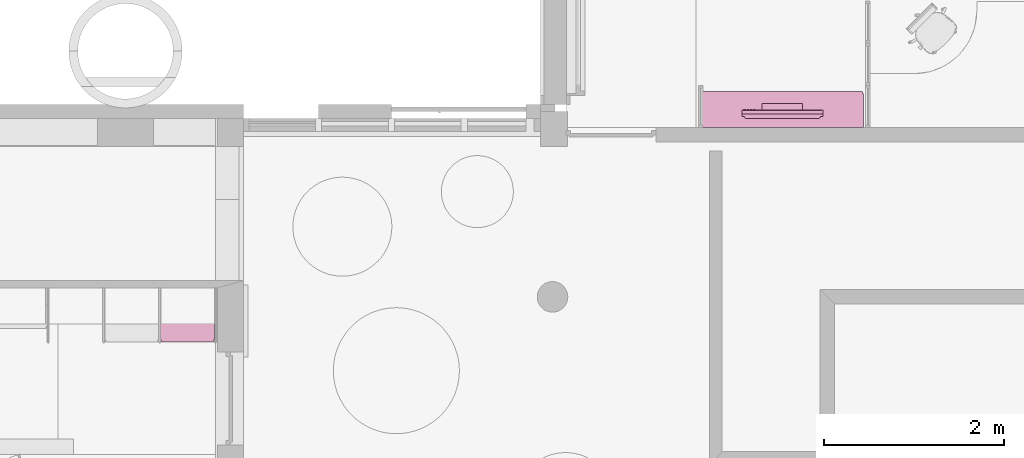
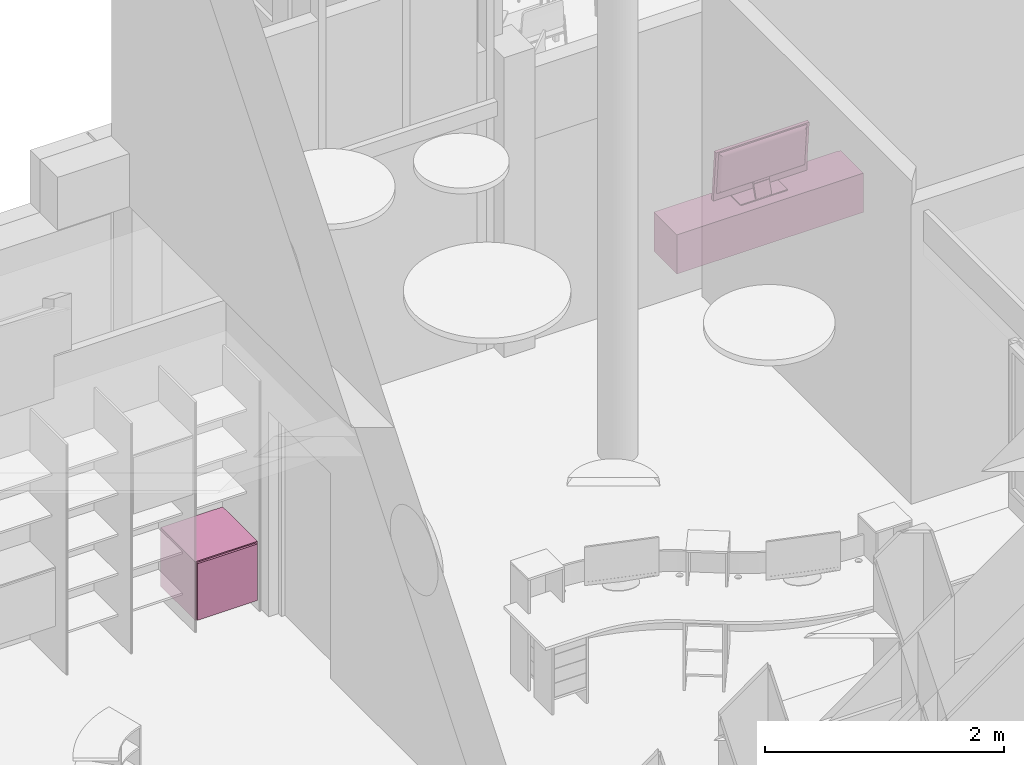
# One storey, part 51 of 64: 3 furnishings.
"""IFC2X3 building model written with IfcOpenShell, lengths in metres."""

from ifc_helpers import new_model, entity, si_unit, converted_unit, derived_unit, direction, frame, origin, place, context, subcontext, project, spatial, faceted_brep, source, transform, mapped, material, type_object, type_shapes, element, save


model = new_model("IFC2X3")

# Units and contexts
model_context = context("Model", 3, precision=1e-05, world=origin(), true_north=direction((6.123031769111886e-17, 1.0)))
body_context = subcontext(model_context, "Body", "Model", "MODEL_VIEW")
ifc_project = project(units=[si_unit("LENGTHUNIT", "METRE"), si_unit("AREAUNIT", "SQUARE_METRE"), si_unit("VOLUMEUNIT", "CUBIC_METRE"), converted_unit("PLANEANGLEUNIT", "DEGREE", entity("IfcRatioMeasure", 0.017453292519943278), si_unit("PLANEANGLEUNIT", "RADIAN"), dimensions=[0, 0, 0, 0, 0, 0, 0]), si_unit("MASSUNIT", "GRAM", prefix="KILO"), derived_unit("MASSDENSITYUNIT", [(si_unit("MASSUNIT", "GRAM", prefix="KILO"), 1), (si_unit("LENGTHUNIT", "METRE"), -3)]), derived_unit("MOMENTOFINERTIAUNIT", [(si_unit("LENGTHUNIT", "METRE"), 4)]), si_unit("TIMEUNIT", "SECOND"), si_unit("FREQUENCYUNIT", "HERTZ"), si_unit("THERMODYNAMICTEMPERATUREUNIT", "DEGREE_CELSIUS"), derived_unit("THERMALTRANSMITTANCEUNIT", [(si_unit("MASSUNIT", "GRAM", prefix="KILO"), 1), (si_unit("THERMODYNAMICTEMPERATUREUNIT", "KELVIN"), -1), (si_unit("TIMEUNIT", "SECOND"), -3)]), derived_unit("THERMALCONDUCTANCEUNIT", [(si_unit("MASSUNIT", "GRAM", prefix="KILO"), 1), (si_unit("LENGTHUNIT", "METRE"), 1), (si_unit("THERMODYNAMICTEMPERATUREUNIT", "KELVIN"), -1), (si_unit("TIMEUNIT", "SECOND"), -3)]), derived_unit("VOLUMETRICFLOWRATEUNIT", [(si_unit("LENGTHUNIT", "METRE"), 3), (si_unit("TIMEUNIT", "SECOND"), -1)]), derived_unit("MASSFLOWRATEUNIT", [(si_unit("MASSUNIT", "GRAM", prefix="KILO"), 1), (si_unit("TIMEUNIT", "SECOND"), -1)]), derived_unit("ROTATIONALFREQUENCYUNIT", [(si_unit("TIMEUNIT", "SECOND"), -1)]), si_unit("ELECTRICCURRENTUNIT", "AMPERE"), si_unit("ELECTRICVOLTAGEUNIT", "VOLT"), si_unit("POWERUNIT", "WATT"), si_unit("FORCEUNIT", "NEWTON", prefix="KILO"), si_unit("ILLUMINANCEUNIT", "LUX"), si_unit("LUMINOUSFLUXUNIT", "LUMEN"), si_unit("LUMINOUSINTENSITYUNIT", "CANDELA"), derived_unit("USERDEFINED", [(si_unit("MASSUNIT", "GRAM", prefix="KILO"), -1), (si_unit("LENGTHUNIT", "METRE"), -2), (si_unit("TIMEUNIT", "SECOND"), 3), (si_unit("LUMINOUSFLUXUNIT", "LUMEN"), 1)]), derived_unit("USERDEFINED", [(si_unit("MASSUNIT", "GRAM", prefix="KILO"), 1), (si_unit("LENGTHUNIT", "METRE"), 3), (si_unit("TIMEUNIT", "SECOND"), -3), (si_unit("ELECTRICCURRENTUNIT", "AMPERE"), -2)]), derived_unit("USERDEFINED", [(si_unit("LENGTHUNIT", "METRE"), 2), (si_unit("TIMEUNIT", "SECOND"), -2)]), derived_unit("SOUNDPOWERUNIT", [(si_unit("MASSUNIT", "GRAM", prefix="KILO"), 1), (si_unit("LENGTHUNIT", "METRE"), 2), (si_unit("TIMEUNIT", "SECOND"), -3)]), derived_unit("SOUNDPRESSUREUNIT", [(si_unit("MASSUNIT", "GRAM", prefix="KILO"), 1), (si_unit("LENGTHUNIT", "METRE"), -1), (si_unit("TIMEUNIT", "SECOND"), -2)]), derived_unit("LINEARVELOCITYUNIT", [(si_unit("LENGTHUNIT", "METRE"), 1), (si_unit("TIMEUNIT", "SECOND"), -1)]), si_unit("PRESSUREUNIT", "PASCAL"), derived_unit("USERDEFINED", [(si_unit("LENGTHUNIT", "METRE"), -2), (si_unit("MASSUNIT", "GRAM", prefix="KILO"), 1), (si_unit("TIMEUNIT", "SECOND"), -2)]), derived_unit("LINEARFORCEUNIT", [(si_unit("MASSUNIT", "GRAM", prefix="KILO"), 1), (si_unit("LENGTHUNIT", "METRE"), 1), (si_unit("TIMEUNIT", "SECOND"), -2), (si_unit("LENGTHUNIT", "METRE"), -1)]), derived_unit("PLANARFORCEUNIT", [(si_unit("MASSUNIT", "GRAM", prefix="KILO"), 1), (si_unit("LENGTHUNIT", "METRE"), 1), (si_unit("TIMEUNIT", "SECOND"), -2), (si_unit("LENGTHUNIT", "METRE"), -2)]), derived_unit("SPECIFICHEATCAPACITYUNIT", [(si_unit("LENGTHUNIT", "METRE"), 2), (si_unit("TIMEUNIT", "SECOND"), -2), (si_unit("THERMODYNAMICTEMPERATUREUNIT", "KELVIN"), -1)]), derived_unit("VAPORPERMEABILITYUNIT", [(si_unit("TIMEUNIT", "SECOND"), 1), (si_unit("LENGTHUNIT", "METRE"), -1)]), derived_unit("DYNAMICVISCOSITYUNIT", [(si_unit("MASSUNIT", "GRAM", prefix="KILO"), 1), (si_unit("LENGTHUNIT", "METRE"), -1), (si_unit("TIMEUNIT", "SECOND"), -1)]), derived_unit("THERMALEXPANSIONCOEFFICIENTUNIT", [(si_unit("THERMODYNAMICTEMPERATUREUNIT", "KELVIN"), -1)])], contexts=[model_context])

# Site, building, storey
site_placement = place(None, origin())
site = spatial("IfcSite", under=ifc_project, at=site_placement, Name="Default", CompositionType="ELEMENT")
building_placement = place(site_placement, origin())
building = spatial("IfcBuilding", under=site, at=building_placement, CompositionType="ELEMENT")
storey_placement = place(building_placement, origin())
storey = spatial("IfcBuildingStorey", under=building, at=storey_placement, Name="REZ-DE-CHAUSSÉE", CompositionType="ELEMENT", Elevation=0.0)

# Furnishings
ifc_material = material(Name="Peinture - Blanc titanium")
furnishing_element_type_1 = type_object("IfcFurnishingElementType", Name="Symb-0006", material=ifc_material)
shared_shape_1 = source(origin(), body_context, "Body", "Brep", [
    faceted_brep([(0.019999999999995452, 0.0, 0.019999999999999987), (0.019999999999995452, 0.0, 0.37999999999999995), (0.019999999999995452, 0.019999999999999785, 0.37999999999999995), (0.019999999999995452, 0.019999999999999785, 0.019999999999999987), (1.7800000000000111, 0.0, 0.019999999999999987), (1.7800000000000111, 0.0, 0.37999999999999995), (1.7800000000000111, 0.019999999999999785, 0.37999999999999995), (1.7800000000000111, 0.019999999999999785, 0.019999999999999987), (1.8000000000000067, 0.3800000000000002, 0.0), (1.8000000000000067, 0.0, 0.0), (1.7800000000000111, 0.0, 0.0), (1.7800000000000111, 0.3800000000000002, 0.0), (1.8000000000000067, 0.3800000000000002, 0.39999999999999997), (1.8000000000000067, 0.0, 0.39999999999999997), (1.7800000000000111, 0.0, 0.39999999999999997), (1.7800000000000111, 0.3800000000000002, 0.39999999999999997), (0.019999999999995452, 0.3800000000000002, 0.0), (0.019999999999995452, 0.0, 0.0), (0.0, 0.0, 0.0), (0.0, 0.3800000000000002, 0.0), (0.019999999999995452, 0.3800000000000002, 0.39999999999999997), (0.019999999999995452, 0.0, 0.39999999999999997), (0.0, 0.0, 0.39999999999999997), (0.0, 0.3800000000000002, 0.39999999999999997), (1.7800000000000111, 0.3800000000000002, 0.019999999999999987), (0.019999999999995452, 0.3800000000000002, 0.019999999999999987), (1.7800000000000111, 0.3800000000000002, 0.37999999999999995), (0.019999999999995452, 0.3800000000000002, 0.37999999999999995), (0.019999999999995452, 0.019999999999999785, 0.0), (1.7800000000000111, 0.019999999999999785, 0.0), (0.011500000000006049, 0.3800000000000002, 0.011499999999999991), (0.011500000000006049, 0.4, 0.011499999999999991), (0.898499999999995, 0.4, 0.011499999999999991), (0.898499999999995, 0.3800000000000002, 0.011499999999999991), (0.011500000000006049, 0.3800000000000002, 0.3885), (0.011500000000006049, 0.4, 0.3885), (0.898499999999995, 0.4, 0.3885), (0.898499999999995, 0.3800000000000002, 0.3885), (1.7885000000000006, 0.3800000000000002, 0.011499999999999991), (0.9014999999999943, 0.3800000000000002, 0.011499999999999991), (0.9014999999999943, 0.4, 0.011499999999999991), (1.7885000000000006, 0.4, 0.011499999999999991), (1.7885000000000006, 0.3800000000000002, 0.3885), (0.9014999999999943, 0.3800000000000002, 0.3885), (0.9014999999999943, 0.4, 0.3885), (1.7885000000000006, 0.4, 0.3885)], [[[0, 1, 2, 3]], [[4, 5, 1, 0]], [[1, 5, 6, 2]], [[3, 2, 6, 7]], [[0, 3, 7, 4]], [[7, 6, 5, 4]], [[8, 9, 10, 11]], [[8, 12, 13, 9]], [[9, 13, 14, 10]], [[10, 14, 15, 11]], [[11, 15, 12, 8]], [[15, 14, 13, 12]], [[16, 17, 18, 19]], [[16, 20, 21, 17]], [[17, 21, 22, 18]], [[18, 22, 23, 19]], [[19, 23, 20, 16]], [[23, 22, 21, 20]], [[11, 10, 17, 16]], [[11, 24, 4, 10]], [[10, 4, 0, 17]], [[17, 0, 25, 16]], [[16, 25, 24, 11]], [[25, 0, 4, 24]], [[26, 5, 1, 27]], [[26, 15, 14, 5]], [[5, 14, 21, 1]], [[1, 21, 20, 27]], [[27, 20, 15, 26]], [[20, 21, 14, 15]], [[17, 28, 29, 10]], [[18, 19, 16, 17]], [[10, 11, 8, 9]], [[30, 31, 32, 33]], [[34, 35, 31, 30]], [[31, 35, 36, 32]], [[33, 32, 36, 37]], [[30, 33, 37, 34]], [[37, 36, 35, 34]], [[38, 39, 40, 41]], [[38, 42, 43, 39]], [[39, 43, 44, 40]], [[41, 40, 44, 45]], [[42, 38, 41, 45]], [[43, 42, 45, 44]]]),
])
type_shapes(furnishing_element_type_1, [shared_shape_1])
furnishing_1_placement = place(storey_placement, frame((122.47075227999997, 15.207209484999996, 0.1)))
element("IfcFurnishingElement", 1, at=furnishing_1_placement, inside=storey, type_object=furnishing_element_type_1, material=ifc_material, Name="Symb-0006 192453:Symb-0006 192453", ObjectType="Symb-0006 192453:Symb-0006 192453", context=body_context, shape_type="MappedRepresentation", body=[
    mapped(shared_shape_1, transform((0.0, 0.0, 0.0), scale=1.0)),
])
furnishing_element_type_2 = type_object("IfcFurnishingElementType", Name="Symb-0006", material=ifc_material)
shared_shape_2 = source(origin(), body_context, "Body", "Brep", [
    faceted_brep([(0.0, 0.09914973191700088, 0.08671020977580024), (0.0, 0.053805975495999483, 0.6049917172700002), (0.901575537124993, 0.053805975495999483, 0.6049917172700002), (0.901575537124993, 0.09914973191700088, 0.08671020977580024), (0.8865755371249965, 0.09784239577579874, 0.10165313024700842), (0.8865755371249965, 0.05511331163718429, 0.5900487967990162), (0.01499999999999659, 0.05511331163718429, 0.5900487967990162), (0.01499999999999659, 0.09784239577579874, 0.10165313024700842), (0.0, 0.06926389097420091, 0.08409553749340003), (0.0, 0.023920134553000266, 0.6023770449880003), (0.901575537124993, 0.023920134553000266, 0.6023770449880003), (0.901575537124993, 0.06926389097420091, 0.08409553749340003), (0.8865755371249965, 0.09286142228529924, 0.10121735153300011), (0.8865755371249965, 0.05013233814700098, 0.5896130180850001), (0.01499999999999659, 0.05013233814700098, 0.5896130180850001), (0.01499999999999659, 0.09286142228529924, 0.10121735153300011), (0.14999999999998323, 0.10088065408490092, 0.08987310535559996), (0.12499999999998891, 0.10088065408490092, 0.08987310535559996), (0.12499999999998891, 0.10053203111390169, 0.0938578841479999), (0.14999999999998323, 0.10053203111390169, 0.0938578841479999), (0.14999999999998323, 0.08095676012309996, 0.0881299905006), (0.12499999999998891, 0.08095676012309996, 0.0881299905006), (0.12499999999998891, 0.08060813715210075, 0.09211476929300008), (0.14999999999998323, 0.08060813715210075, 0.09211476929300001), (0.11499999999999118, 0.10088065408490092, 0.08987310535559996), (0.08999999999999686, 0.10088065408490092, 0.08987310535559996), (0.08999999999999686, 0.10053203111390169, 0.0938578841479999), (0.11499999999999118, 0.10053203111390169, 0.0938578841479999), (0.11499999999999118, 0.08095676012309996, 0.0881299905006), (0.08999999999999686, 0.08095676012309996, 0.0881299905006), (0.08999999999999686, 0.08060813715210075, 0.09211476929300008), (0.11499999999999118, 0.08060813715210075, 0.09211476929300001), (0.07999999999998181, 0.10088065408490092, 0.08987310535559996), (0.054999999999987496, 0.10088065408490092, 0.08987310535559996), (0.054999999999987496, 0.10053203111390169, 0.0938578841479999), (0.07999999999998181, 0.10053203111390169, 0.0938578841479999), (0.07999999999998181, 0.08095676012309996, 0.0881299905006), (0.054999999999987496, 0.08095676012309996, 0.0881299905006), (0.054999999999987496, 0.08060813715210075, 0.09211476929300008), (0.07999999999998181, 0.08060813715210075, 0.09211476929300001), (0.04499999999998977, 0.10088065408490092, 0.08987310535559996), (0.019999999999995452, 0.10088065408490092, 0.08987310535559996), (0.019999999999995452, 0.10053203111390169, 0.0938578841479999), (0.04499999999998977, 0.10053203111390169, 0.0938578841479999), (0.04499999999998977, 0.08095676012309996, 0.0881299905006), (0.019999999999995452, 0.08095676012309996, 0.0881299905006), (0.019999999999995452, 0.08060813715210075, 0.09211476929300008), (0.04499999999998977, 0.08060813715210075, 0.09211476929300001), (0.6761816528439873, 0.1682994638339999, 0.0), (0.22539388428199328, 0.1682994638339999, 0.0), (0.22539388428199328, 0.1682994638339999, 0.010000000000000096), (0.6761816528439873, 0.1682994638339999, 0.010000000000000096), (0.6761816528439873, 0.0, 0.0), (0.22539388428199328, 0.0, 0.0), (0.22539388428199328, 0.0, 0.010000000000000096), (0.6761816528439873, 0.0, 0.010000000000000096), (0.8765755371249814, 0.0691497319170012, 0.15842041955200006), (0.024999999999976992, 0.0691497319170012, 0.15842041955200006), (0.024999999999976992, 0.03136326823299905, 0.590321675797), (0.8765755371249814, 0.03136326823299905, 0.590321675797), (0.8763060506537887, 0.06503031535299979, 0.15833053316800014), (0.02526948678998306, 0.06503031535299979, 0.15833053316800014), (0.02526948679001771, 0.027290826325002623, 0.58969486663), (0.8763060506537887, 0.027290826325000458, 0.5896948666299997), (0.8741777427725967, 0.05693209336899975, 0.15975846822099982), (0.02739779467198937, 0.05693209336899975, 0.15975846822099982), (0.027397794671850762, 0.019563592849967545, 0.5868823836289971), (0.8741777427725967, 0.019563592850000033, 0.5868823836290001), (0.8700661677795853, 0.04947938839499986, 0.16323372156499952), (0.03150936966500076, 0.04947938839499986, 0.16323372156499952), (0.03150936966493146, 0.012827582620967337, 0.582165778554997), (0.8700661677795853, 0.01282758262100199, 0.582165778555), (0.8642515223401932, 0.04318008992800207, 0.1685194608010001), (0.037324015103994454, 0.04318008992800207, 0.1685194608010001), (0.03732401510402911, 0.0075418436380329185, 0.5758664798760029), (0.8642515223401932, 0.007541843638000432, 0.575866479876), (0.8571300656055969, 0.03846348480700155, 0.17525547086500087), (0.04444547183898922, 0.03846348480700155, 0.17525547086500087), (0.04444547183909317, 0.004066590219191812, 0.5684137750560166), (0.8571300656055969, 0.004066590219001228, 0.5684137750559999), (0.8491871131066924, 0.03565100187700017, 0.1829827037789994), (0.05238842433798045, 0.03565100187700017, 0.1829827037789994), (0.05238842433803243, 0.0026386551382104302, 0.5603155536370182), (0.8491871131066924, 0.002638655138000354, 0.5603155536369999), (0.8450755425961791, 0.035024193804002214, 0.187055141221), (0.05649999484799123, 0.035024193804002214, 0.187055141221), (0.05649999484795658, 0.0027285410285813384, 0.5561961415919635), (0.8450755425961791, 0.002728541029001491, 0.556196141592), (0.5259190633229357, 0.060032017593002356, 0.13593153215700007), (0.5259190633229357, 0.06364973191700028, 0.13743003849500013), (0.5259190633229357, 0.06675633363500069, 0.13981381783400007), (0.5259190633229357, 0.06914011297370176, 0.14292041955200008), (0.5259190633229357, 0.07063861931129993, 0.14653813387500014), (0.5259190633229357, 0.07114973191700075, 0.15042041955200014), (0.5259190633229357, 0.07063861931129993, 0.15430270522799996), (0.5259190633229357, 0.06914011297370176, 0.15792041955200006), (0.5259190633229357, 0.06675633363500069, 0.16102702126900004), (0.5259190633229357, 0.06364973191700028, 0.16341080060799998), (0.5259190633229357, 0.060032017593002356, 0.16490930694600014), (0.5259190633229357, 0.056149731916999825, 0.16542041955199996), (0.5259190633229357, 0.05226744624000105, 0.16490930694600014), (0.5259190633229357, 0.04864973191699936, 0.16341080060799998), (0.5259190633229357, 0.045543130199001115, 0.16102702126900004), (0.5259190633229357, 0.04315935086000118, 0.15792041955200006), (0.5259190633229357, 0.04166084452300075, 0.15430270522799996), (0.5259190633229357, 0.04114973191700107, 0.15042041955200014), (0.5259190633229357, 0.04166084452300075, 0.14653813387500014), (0.5259190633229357, 0.04315935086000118, 0.14292041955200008), (0.5259190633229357, 0.045543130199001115, 0.13981381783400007), (0.5259190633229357, 0.04864973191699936, 0.13743003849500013), (0.5259190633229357, 0.05226744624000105, 0.13593153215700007), (0.5259190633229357, 0.056149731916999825, 0.13542041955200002), (0.375656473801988, 0.060032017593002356, 0.13593153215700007), (0.375656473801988, 0.06364973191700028, 0.13743003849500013), (0.375656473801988, 0.06675633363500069, 0.13981381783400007), (0.375656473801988, 0.06914011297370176, 0.14292041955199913), (0.375656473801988, 0.07063861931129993, 0.1465381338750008), (0.375656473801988, 0.07114973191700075, 0.15042041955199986), (0.375656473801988, 0.07063861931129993, 0.1543027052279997), (0.375656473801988, 0.06914011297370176, 0.15792041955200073), (0.375656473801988, 0.06675633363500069, 0.16102702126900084), (0.375656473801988, 0.06364973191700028, 0.16341080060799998), (0.375656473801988, 0.060032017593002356, 0.16490930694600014), (0.375656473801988, 0.056149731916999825, 0.16542041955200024), (0.375656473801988, 0.05226744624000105, 0.16490930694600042), (0.375656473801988, 0.04864973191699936, 0.16341080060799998), (0.375656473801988, 0.045543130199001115, 0.16102702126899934), (0.375656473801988, 0.04315935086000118, 0.15792041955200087), (0.375656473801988, 0.04166084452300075, 0.15430270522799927), (0.375656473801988, 0.04114973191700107, 0.15042041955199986), (0.375656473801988, 0.04166084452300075, 0.14653813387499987), (0.375656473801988, 0.04315935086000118, 0.14292041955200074), (0.375656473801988, 0.045543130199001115, 0.13981381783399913), (0.375656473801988, 0.04864973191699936, 0.13743003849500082), (0.375656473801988, 0.05226744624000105, 0.13593153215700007), (0.375656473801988, 0.056149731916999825, 0.13542041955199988), (0.5259190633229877, 0.019999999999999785, 0.0), (0.375656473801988, 0.019999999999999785, 0.0), (0.375656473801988, 0.06569231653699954, 0.14633462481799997), (0.5259190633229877, 0.06569231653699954, 0.14633462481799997), (0.5259190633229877, 0.0009090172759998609, 0.005961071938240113), (0.375656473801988, 0.0009090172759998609, 0.005961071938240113), (0.375656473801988, 0.046601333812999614, 0.15229569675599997), (0.5259190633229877, 0.046601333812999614, 0.15229569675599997)], [[[0, 1, 2, 3], [4, 5, 6, 7]], [[8, 9, 1, 0]], [[1, 9, 10, 2]], [[3, 2, 10, 11]], [[11, 8, 0, 3]], [[5, 4, 12, 13]], [[6, 5, 13, 14]], [[7, 6, 14, 15]], [[4, 7, 15, 12]], [[11, 10, 9, 8]], [[14, 13, 12, 15]], [[4, 5, 6, 7]], [[16, 17, 18, 19]], [[16, 20, 21, 17]], [[17, 21, 22, 18]], [[19, 18, 22, 23]], [[20, 16, 19, 23]], [[21, 20, 23, 22]], [[24, 25, 26, 27]], [[24, 28, 29, 25]], [[25, 29, 30, 26]], [[27, 26, 30, 31]], [[28, 24, 27, 31]], [[29, 28, 31, 30]], [[32, 33, 34, 35]], [[32, 36, 37, 33]], [[33, 37, 38, 34]], [[35, 34, 38, 39]], [[36, 32, 35, 39]], [[37, 36, 39, 38]], [[40, 41, 42, 43]], [[40, 44, 45, 41]], [[41, 45, 46, 42]], [[43, 42, 46, 47]], [[44, 40, 43, 47]], [[45, 44, 47, 46]], [[48, 49, 50, 51]], [[48, 52, 53, 49]], [[49, 53, 54, 50]], [[51, 50, 54, 55]], [[52, 48, 51, 55]], [[53, 52, 55, 54]], [[56, 57, 58, 59]], [[57, 56, 60, 61]], [[58, 57, 61, 62]], [[59, 58, 62, 63]], [[56, 59, 63, 60]], [[61, 60, 64, 65]], [[62, 61, 65, 66]], [[63, 62, 66, 67]], [[60, 63, 67, 64]], [[65, 64, 68, 69]], [[66, 65, 69, 70]], [[67, 66, 70, 71]], [[64, 67, 71, 68]], [[69, 68, 72, 73]], [[70, 69, 73, 74]], [[71, 70, 74, 75]], [[68, 71, 75, 72]], [[73, 72, 76, 77]], [[74, 73, 77, 78]], [[75, 74, 78, 79]], [[72, 75, 79, 76]], [[77, 76, 80, 81]], [[78, 77, 81, 82]], [[79, 78, 82, 83]], [[76, 79, 83, 80]], [[81, 80, 84, 85]], [[82, 81, 85, 86]], [[83, 82, 86, 87]], [[80, 83, 87, 84]], [[85, 84, 87, 86]], [[88, 89, 90, 91, 92, 93, 94, 95, 96, 97, 98, 99, 100, 101, 102, 103, 104, 105, 106, 107, 108, 109, 110, 111]], [[89, 88, 112, 113]], [[90, 89, 113, 114]], [[91, 90, 114, 115]], [[92, 91, 115, 116]], [[93, 92, 116, 117]], [[94, 93, 117, 118]], [[95, 94, 118, 119]], [[96, 95, 119, 120]], [[97, 96, 120, 121]], [[98, 97, 121, 122]], [[99, 98, 122, 123]], [[100, 99, 123, 124]], [[101, 100, 124, 125]], [[102, 101, 125, 126]], [[103, 102, 126, 127]], [[104, 103, 127, 128]], [[105, 104, 128, 129]], [[106, 105, 129, 130]], [[107, 106, 130, 131]], [[108, 107, 131, 132]], [[109, 108, 132, 133]], [[110, 109, 133, 134]], [[111, 110, 134, 135]], [[88, 111, 135, 112]], [[112, 135, 134, 133, 132, 131, 130, 129, 128, 127, 126, 125, 124, 123, 122, 121, 120, 119, 118, 117, 116, 115, 114, 113]], [[136, 137, 138, 139]], [[136, 140, 141, 137]], [[137, 141, 142, 138]], [[139, 138, 142, 143]], [[140, 136, 139, 143]], [[141, 140, 143, 142]]]),
])
type_shapes(furnishing_element_type_2, [shared_shape_2])
furnishing_2_placement = place(storey_placement, frame((122.91996451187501, 15.307209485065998, 0.49999999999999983)))
element("IfcFurnishingElement", 2, at=furnishing_2_placement, inside=storey, type_object=furnishing_element_type_2, material=ifc_material, Name="Symb-0006 193378:Symb-0006 193378", ObjectType="Symb-0006 193378:Symb-0006 193378", context=body_context, shape_type="MappedRepresentation", body=[
    mapped(shared_shape_2, transform((0.0, 0.0, 0.0), scale=1.0)),
])
furnishing_element_type_3 = type_object("IfcFurnishingElementType", Name="Symb-0007", material=ifc_material)
shared_shape_3 = source(origin(), body_context, "Body", "Brep", [
    faceted_brep([(0.019999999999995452, 0.6000000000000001, 0.019999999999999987), (0.019999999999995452, 0.5800000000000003, 0.019999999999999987), (0.019999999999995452, 0.5800000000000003, 0.5799999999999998), (0.019999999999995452, 0.6000000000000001, 0.5799999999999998), (0.5800000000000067, 0.6000000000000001, 0.019999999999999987), (0.5800000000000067, 0.5800000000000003, 0.019999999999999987), (0.5800000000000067, 0.5800000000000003, 0.5799999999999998), (0.5800000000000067, 0.6000000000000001, 0.5799999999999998), (0.6000000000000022, 0.019999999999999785, 0.0), (0.5800000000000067, 0.019999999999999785, 0.0), (0.5800000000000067, 0.6000000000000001, 0.0), (0.6000000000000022, 0.6000000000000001, 0.0), (0.6000000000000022, 0.019999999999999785, 0.5999999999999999), (0.5800000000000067, 0.019999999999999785, 0.5999999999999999), (0.5800000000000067, 0.6000000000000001, 0.5999999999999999), (0.6000000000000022, 0.6000000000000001, 0.5999999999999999), (0.019999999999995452, 0.019999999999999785, 0.0), (0.0, 0.019999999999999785, 0.0), (0.0, 0.6000000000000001, 0.0), (0.019999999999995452, 0.6000000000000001, 0.0), (0.019999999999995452, 0.019999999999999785, 0.5999999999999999), (0.0, 0.019999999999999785, 0.5999999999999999), (0.0, 0.6000000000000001, 0.5999999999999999), (0.019999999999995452, 0.6000000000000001, 0.5999999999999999), (0.5800000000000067, 0.019999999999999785, 0.019999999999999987), (0.019999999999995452, 0.019999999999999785, 0.019999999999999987), (0.5800000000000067, 0.019999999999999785, 0.5799999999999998), (0.019999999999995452, 0.019999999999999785, 0.5799999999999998), (0.5800000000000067, 0.5800000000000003, 0.0), (0.019999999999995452, 0.5800000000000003, 0.0), (0.011500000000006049, 0.019999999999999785, 0.011499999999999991), (0.5884999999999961, 0.019999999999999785, 0.011499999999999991), (0.5884999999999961, 0.0, 0.011499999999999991), (0.011500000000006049, 0.0, 0.011499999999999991), (0.011500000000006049, 0.019999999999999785, 0.5884999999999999), (0.5884999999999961, 0.019999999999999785, 0.5884999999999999), (0.5884999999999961, 0.0, 0.5884999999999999), (0.011500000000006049, 0.0, 0.5884999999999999)], [[[0, 1, 2, 3]], [[0, 4, 5, 1]], [[1, 5, 6, 2]], [[3, 2, 6, 7]], [[4, 0, 3, 7]], [[5, 4, 7, 6]], [[8, 9, 10, 11]], [[9, 8, 12, 13]], [[10, 9, 13, 14]], [[11, 10, 14, 15]], [[8, 11, 15, 12]], [[13, 12, 15, 14]], [[16, 17, 18, 19]], [[17, 16, 20, 21]], [[18, 17, 21, 22]], [[19, 18, 22, 23]], [[16, 19, 23, 20]], [[21, 20, 23, 22]], [[9, 16, 19, 10]], [[16, 9, 24, 25]], [[19, 16, 25, 0]], [[10, 19, 0, 4]], [[9, 10, 4, 24]], [[25, 24, 4, 0]], [[26, 27, 3, 7]], [[27, 26, 13, 20]], [[3, 27, 20, 23]], [[7, 3, 23, 14]], [[26, 7, 14, 13]], [[20, 13, 14, 23]], [[19, 10, 28, 29]], [[18, 19, 16, 17]], [[10, 11, 8, 9]], [[30, 31, 32, 33]], [[30, 34, 35, 31]], [[31, 35, 36, 32]], [[33, 32, 36, 37]], [[34, 30, 33, 37]], [[35, 34, 37, 36]]]),
])
type_shapes(furnishing_element_type_3, [shared_shape_3])
furnishing_3_placement = place(storey_placement, frame((116.46075228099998, 12.8272094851, 0.1)))
element("IfcFurnishingElement", 3, at=furnishing_3_placement, inside=storey, type_object=furnishing_element_type_3, material=ifc_material, Name="Symb-0007 220175:Symb-0007 220175", ObjectType="Symb-0007 220175:Symb-0007 220175", context=body_context, shape_type="MappedRepresentation", body=[
    mapped(shared_shape_3, transform((0.0, 0.0, 0.0), scale=1.0)),
])

save(model, "model.ifc")
